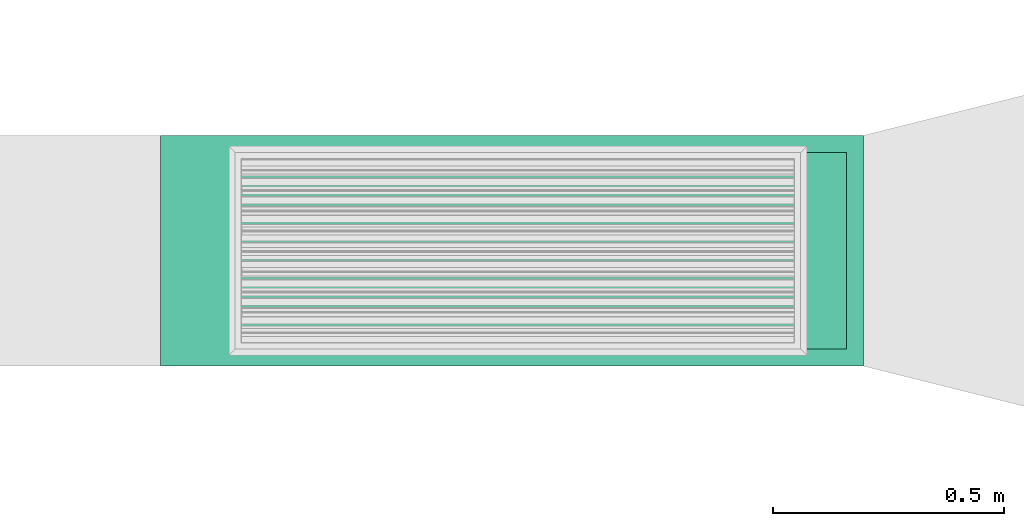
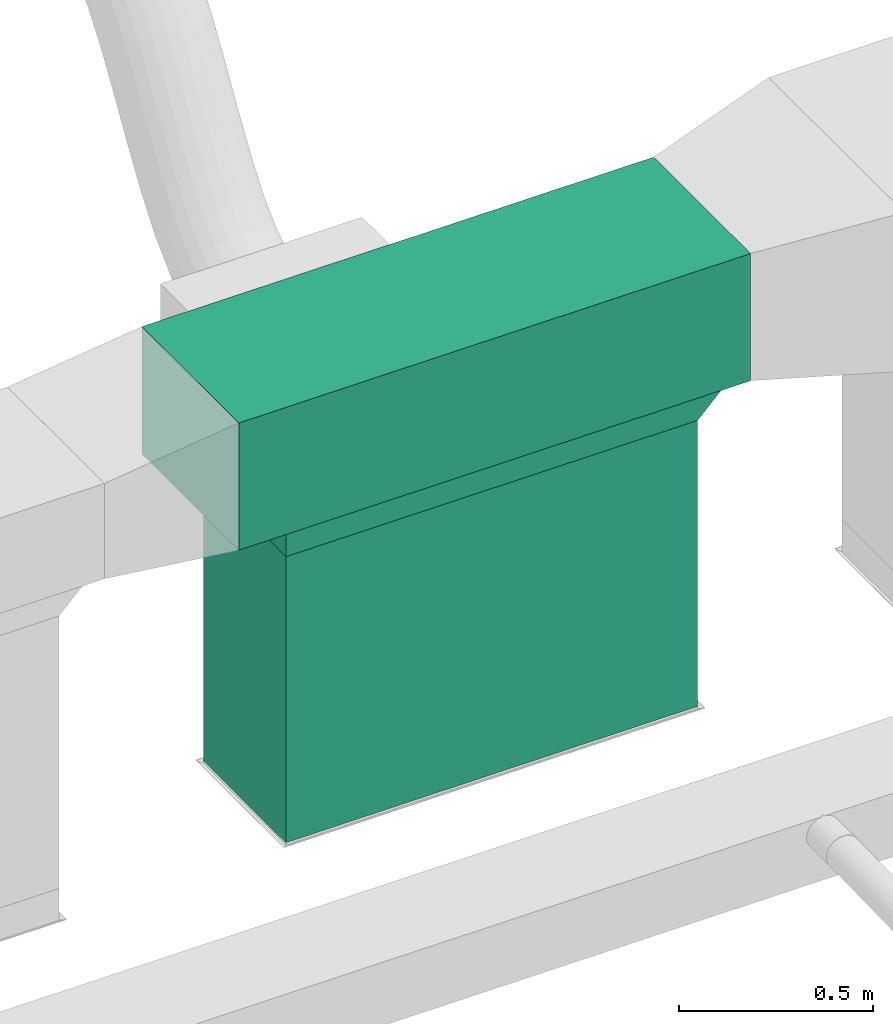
# One storey, part 4 of 60: 2 flow segments, 1 flow fitting.
"""IFC2X3 building model written with IfcOpenShell, lengths in millimetres."""

import ifcopenshell
import ifcopenshell.guid

model = None  # the IFC model being written
_history = None  # IfcOwnerHistory: only IFC2X3 demands one
_inside = {}  # id of a spatial element -> (the spatial element, [elements in it])
_under = {}  # id of a project, library or spatial element -> (it, [spatial elements below it])
_declared = {}  # id of a project -> (the project, [libraries it declares])
_typed = {}  # id of a type object -> (the type object, [elements of that type])
_made_of = {}  # id of a material, layer set ... -> (it, [elements and type objects made of it])


def new_model(schema):
    """Start an empty IFC model of exactly this schema.

    Asked for "IFC4X3", IfcOpenShell would pick the latest addendum, in which some entities
    have other attributes; the version numbers below select the first issue.
    IFC2X3 requires an IfcOwnerHistory on every rooted entity: one is made here for all.
    """
    global model, _history
    if schema == "IFC4X3":
        model = ifcopenshell.file(schema_version=(4, 3, 0, 0))
    else:
        model = ifcopenshell.file(schema=schema)
    _inside.clear()
    _under.clear()
    _declared.clear()
    _typed.clear()
    _made_of.clear()
    _history = None
    if model.schema == "IFC2X3":
        org = make("IfcOrganization", Name="unknown")
        user = make(
            "IfcPersonAndOrganization",
            ThePerson=make("IfcPerson", FamilyName="unknown"),
            TheOrganization=org,
        )
        app = make(
            "IfcApplication",
            ApplicationDeveloper=org,
            Version="unknown",
            ApplicationFullName="unknown",
            ApplicationIdentifier="unknown",
        )
        _history = make(
            "IfcOwnerHistory",
            OwningUser=user,
            OwningApplication=app,
            ChangeAction="ADDED",
            CreationDate=0,
        )
    return model


def make(cls, **values):
    """One entity of the class cls with the attributes given. An attribute that is None is left unset."""
    return model.create_entity(
        cls, **{name: value for name, value in values.items() if value is not None}
    )


def entity(cls, *values):
    """Any entity or typed value of the class cls, its attributes in the order of the schema. None: left unset."""
    e = model.create_entity(cls)
    for i, value in enumerate(values):
        if value is not None:
            e[i] = value
    return e


def rooted(cls, **values):
    """An entity with a GlobalId (a new one), such as an element, a storey or a relation."""
    return make(cls, GlobalId=ifcopenshell.guid.new(), OwnerHistory=_history, **values)


def si_unit(unit_type, name, prefix=None):
    """IfcSIUnit, for example si_unit("LENGTHUNIT", "METRE", prefix="MILLI")."""
    return make("IfcSIUnit", UnitType=unit_type, Prefix=prefix, Name=name)


def converted_unit(unit_type, name, factor, base, dimensions=None, offset=None):
    """IfcConversionBasedUnit, such as the inch: factor (a typed value) times the base unit."""
    return make(
        "IfcConversionBasedUnit"
        if offset is None
        else "IfcConversionBasedUnitWithOffset",
        ConversionOffset=offset,
        Dimensions=None
        if dimensions is None
        else entity("IfcDimensionalExponents", *dimensions),
        UnitType=unit_type,
        Name=name,
        ConversionFactor=make(
            "IfcMeasureWithUnit", ValueComponent=factor, UnitComponent=base
        ),
    )


def derived_unit(unit_type, elements):
    """IfcDerivedUnit: a product of units, each with its exponent."""
    return make(
        "IfcDerivedUnit",
        Elements=[
            make("IfcDerivedUnitElement", Unit=unit, Exponent=power)
            for unit, power in elements
        ],
        UnitType=unit_type,
    )


def assignment(units):
    """IfcUnitAssignment: the units of a project."""
    return None if units is None else make("IfcUnitAssignment", Units=units)


def point(xyz):
    """IfcCartesianPoint."""
    return None if xyz is None else make("IfcCartesianPoint", Coordinates=xyz)


def direction(xyz):
    """IfcDirection."""
    return None if xyz is None else make("IfcDirection", DirectionRatios=xyz)


def frame(location, z_axis=None, x_axis=None):
    """IfcAxis2Placement3D, a coordinate frame: its origin and axes. An axis left out is left unset."""
    return make(
        "IfcAxis2Placement3D",
        Location=point(location),
        Axis=direction(z_axis),
        RefDirection=direction(x_axis),
    )


def frame_2d(location, x_axis=None):
    """IfcAxis2Placement2D, a coordinate frame in the plane: its origin and x axis."""
    return make(
        "IfcAxis2Placement2D", Location=point(location), RefDirection=direction(x_axis)
    )


def origin():
    """The frame at (0, 0, 0) with its axes left unset."""
    return frame((0.0, 0.0, 0.0))


def origin_2d_with_axis():
    """The frame at (0, 0) in the plane with the x axis (1, 0) written out."""
    return frame_2d((0.0, 0.0), x_axis=(1.0, 0.0))


def place(relative_to, where):
    """IfcLocalPlacement: puts the frame where relative to a parent placement (None: the world)."""
    return make(
        "IfcLocalPlacement", PlacementRelTo=relative_to, RelativePlacement=where
    )


def context(
    kind, dimensions, precision=None, world=None, true_north=None, identifier=None
):
    """IfcGeometricRepresentationContext, for example the 3D "Model" context."""
    return make(
        "IfcGeometricRepresentationContext",
        ContextIdentifier=identifier,
        ContextType=kind,
        CoordinateSpaceDimension=dimensions,
        Precision=precision,
        WorldCoordinateSystem=world,
        TrueNorth=true_north,
    )


def subcontext(parent, identifier, kind, view, scale=None):
    """IfcGeometricRepresentationSubContext, for example "Body" below "Model"."""
    return make(
        "IfcGeometricRepresentationSubContext",
        ContextIdentifier=identifier,
        ContextType=kind,
        ParentContext=parent,
        TargetScale=scale,
        TargetView=view,
    )


def project(units=None, contexts=None):
    """IfcProject with its units and contexts."""
    return rooted(
        "IfcProject",
        Name="project",
        RepresentationContexts=contexts,
        UnitsInContext=assignment(units),
    )


def spatial(cls, under=None, at=None, **own):
    """A site, building, storey or space (cls), placed at a placement, below another one or the project."""
    s = rooted(cls, ObjectPlacement=at, **own)
    if under is not None:
        _under.setdefault(under.id(), (under, []))[1].append(s)
    return s


def polyline(points):
    """IfcPolyline through the points."""
    return make("IfcPolyline", Points=[point(p) for p in points])


def profile(cls, at=None, kind="AREA", **sizes):
    """A parametric profile (cls). Its sizes go by their IFC names, for example OverallWidth=200.0."""
    return make(cls, ProfileType=kind, Position=at, **sizes)


def rectangle(**sizes):
    """IfcRectangleProfileDef."""
    return profile("IfcRectangleProfileDef", **sizes)


def outline(outer, holes=None, kind="AREA"):
    """IfcArbitraryClosedProfileDef: a profile drawn as a closed curve; with holes, ...WithVoids."""
    if holes is None:
        return make("IfcArbitraryClosedProfileDef", ProfileType=kind, OuterCurve=outer)
    return make(
        "IfcArbitraryProfileDefWithVoids",
        ProfileType=kind,
        OuterCurve=outer,
        InnerCurves=holes,
    )


def extrude(swept, where, along, depth):
    """IfcExtrudedAreaSolid: the profile swept, set in the frame where, extruded along a direction by depth."""
    return make(
        "IfcExtrudedAreaSolid",
        SweptArea=swept,
        Position=where,
        ExtrudedDirection=direction(along),
        Depth=depth,
    )


def shape(context_of_items, identifier, shape_type, items):
    """IfcShapeRepresentation: the items that make up one representation, for example the "Body"."""
    return make(
        "IfcShapeRepresentation",
        ContextOfItems=context_of_items,
        RepresentationIdentifier=identifier,
        RepresentationType=shape_type,
        Items=items,
    )


def source(mapping_origin, context_of_items, identifier, shape_type, items):
    """IfcRepresentationMap: a shape defined once, which mapped items show again and again."""
    return make(
        "IfcRepresentationMap",
        MappingOrigin=mapping_origin,
        MappedRepresentation=shape(context_of_items, identifier, shape_type, items),
    )


def transform(
    local_origin,
    x_axis=None,
    y_axis=None,
    z_axis=None,
    scale=None,
    scale2=None,
    scale3=None,
    uniform=True,
):
    """IfcCartesianTransformationOperator3D, or its non-uniform kind. x_axis, y_axis, z_axis: its Axis1, 2, 3."""
    if uniform:
        return make(
            "IfcCartesianTransformationOperator3D",
            Axis1=direction(x_axis),
            Axis2=direction(y_axis),
            LocalOrigin=point(local_origin),
            Scale=scale,
            Axis3=direction(z_axis),
        )
    return make(
        "IfcCartesianTransformationOperator3DnonUniform",
        Axis1=direction(x_axis),
        Axis2=direction(y_axis),
        LocalOrigin=point(local_origin),
        Scale=scale,
        Axis3=direction(z_axis),
        Scale2=scale2,
        Scale3=scale3,
    )


def mapped(mapping_source, mapping_target):
    """IfcMappedItem: shows the shape of a source again, moved by a transform."""
    return make(
        "IfcMappedItem", MappingSource=mapping_source, MappingTarget=mapping_target
    )


def material(Name=None, Category=None):
    """IfcMaterial."""
    return make("IfcMaterial", Name=Name, Category=Category)


def made_of(thing, what):
    """Note that an element or type object is made of a material, layer set ...; save() writes the relation."""
    if what is not None:
        _made_of.setdefault(what.id(), (what, []))[1].append(thing)
    return thing


def type_object(cls, material=None, **own):
    """A type object (cls), such as IfcWallType, which elements share."""
    return made_of(rooted(cls, **own), material)


def type_shapes(of_type, sources):
    """Give a type object the sources (RepresentationMaps) that its elements show as mapped items."""
    of_type.RepresentationMaps = sources


def element(
    cls,
    number,
    at=None,
    inside=None,
    cuts=None,
    type_object=None,
    material=None,
    context=None,
    identifier="Body",
    shape_type=None,
    held_by="IfcProductDefinitionShape",
    body=None,
    shapes=None,
    **own,
):
    """One element of the class cls, such as IfcWall. Its Tag is "e" and its number.

    at: its placement. inside: the storey or other place that contains it. cuts: it is an
    opening in that element (IfcRelVoidsElement). A single representation is given by context,
    identifier, shape_type and body (its items); several are given by shapes. held_by: the class
    of the entity that holds the representations. save() writes the other relations.
    """
    e = rooted(cls, Tag="e%d" % number, ObjectPlacement=at, **own)
    if body is not None:
        shapes = [shape(context, identifier, shape_type, body)]
    if shapes is not None:
        e.Representation = make(held_by, Representations=shapes)
    if inside is not None:
        _inside.setdefault(inside.id(), (inside, []))[1].append(e)
    if cuts is not None:
        rooted(
            "IfcRelVoidsElement", RelatingBuildingElement=cuts, RelatedOpeningElement=e
        )
    if type_object is not None:
        _typed.setdefault(type_object.id(), (type_object, []))[1].append(e)
    return made_of(e, material)


def aggregate(whole, parts):
    """IfcRelAggregates: a whole, such as a stair, and the parts it consists of."""
    return rooted("IfcRelAggregates", RelatingObject=whole, RelatedObjects=parts)


def save(model, path):
    """Write the relations noted so far, then the file.

    IfcRelAggregates (storeys below a building ...), IfcRelContainedInSpatialStructure (elements
    in a storey), IfcRelDefinesByType, IfcRelAssociatesMaterial and IfcRelDeclares: one each for
    every whole, place, type object, material and project.
    """
    for whole, parts in _under.values():
        aggregate(whole, parts)
    for where, things in _inside.values():
        rooted(
            "IfcRelContainedInSpatialStructure",
            RelatedElements=things,
            RelatingStructure=where,
        )
    for kind, things in _typed.values():
        rooted("IfcRelDefinesByType", RelatedObjects=things, RelatingType=kind)
    for what, things in _made_of.values():
        rooted("IfcRelAssociatesMaterial", RelatedObjects=things, RelatingMaterial=what)
    for by, libraries in _declared.values():
        rooted("IfcRelDeclares", RelatingContext=by, RelatedDefinitions=libraries)
    model.write(path)


model = new_model("IFC2X3")

# Units and contexts
model_context = context("Model", 3, precision=0.01, world=origin(), true_north=direction((6.123233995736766e-17, 1.0)))
body_context = subcontext(model_context, "Body", "Model", "MODEL_VIEW")
ifc_project = project(units=[si_unit("LENGTHUNIT", "METRE", prefix="MILLI"), converted_unit("PLANEANGLEUNIT", "DEGREE", entity("IfcPlaneAngleMeasure", 0.017453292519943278), si_unit("PLANEANGLEUNIT", "RADIAN"), dimensions=[0, 0, 0, 0, 0, 0, 0]), si_unit("AREAUNIT", "SQUARE_METRE"), derived_unit("THERMALTRANSMITTANCEUNIT", [(si_unit("MASSUNIT", "GRAM", prefix="KILO"), 1), (si_unit("THERMODYNAMICTEMPERATUREUNIT", "KELVIN"), -1), (si_unit("TIMEUNIT", "SECOND"), -3)])], contexts=[model_context])

# Site, building, storey
site_placement = place(None, origin())
site = spatial("IfcSite", under=ifc_project, at=site_placement, Name="Default", CompositionType="ELEMENT")
building_placement = place(site_placement, origin())
building = spatial("IfcBuilding", under=site, at=building_placement, Name="Praça Pedro II, 1301 - Centro (Sul), Teresina - PI, 64001-100", CompositionType="ELEMENT")
storey_placement = place(building_placement, frame((0.0, 0.0, 6040.0)))
storey = spatial("IfcBuildingStorey", under=building, at=storey_placement, Name="2PAV", CompositionType="ELEMENT", Elevation=6040.0)

# Flow segments
duct_segment_type = type_object("IfcDuctSegmentType", Name="Duto retangular:Raios cotovelos / torneiras", PredefinedType="NOTDEFINED")
flow_segment_1_placement = place(storey_placement, origin())
element("IfcFlowSegment", 1, at=flow_segment_1_placement, inside=storey, type_object=duct_segment_type, Name="Duto retangular:Raios cotovelos / torneiras", ObjectType="Duto retangular:Raios cotovelos / torneiras", context=body_context, shape_type="SweptSolid", body=[
    extrude(rectangle(XDim=1522.9828138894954, YDim=499.999999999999, at=origin_2d_with_axis()), frame((26236.72683132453, -67411.94163590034, 3300.0)), (0.0, 0.0, 1.0), 400.0),
])
flow_segment_2_placement = place(storey_placement, origin())
element("IfcFlowSegment", 2, at=flow_segment_2_placement, inside=storey, type_object=duct_segment_type, Name="Duto retangular:Raios cotovelos / torneiras", ObjectType="Duto retangular:Raios cotovelos / torneiras", context=body_context, shape_type="SweptSolid", body=[
    extrude(rectangle(XDim=425.00000000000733, YDim=1224.9999999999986, at=frame_2d((8.668621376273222e-12, 0.0), x_axis=(1.0, 0.0))), frame((26249.5174992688, -67411.94163590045, 2300.0), z_axis=(0.0, 0.0, 1.0), x_axis=(0.0, -1.0, 0.0)), (0.0, 0.0, 1.0), 899.9999999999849),
])

# Flow fitting
ifc_material = material(Name="<Unnamed>")
duct_fitting_type = type_object("IfcDuctFittingType", Name="M_Rectangular Tap - Beveled:Standard", PredefinedType="NOTDEFINED", material=ifc_material)
shared_shape = source(origin(), body_context, "Body", "SweptSolid", [
    extrude(outline(polyline([(-775.0, -62.438400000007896), (450.0, -62.438400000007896), (550.0, 37.56159999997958), (550.0, 43.6576000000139), (-775.0, 43.65760000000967), (-775.0, -62.438400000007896)])), frame((37.56159999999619, 162.50000000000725, -212.49999999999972), z_axis=(0.0, 0.0, 1.0), x_axis=(0.0, 1.0, 0.0)), (0.0, 0.0, 1.0), 424.99999999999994),
])
type_shapes(duct_fitting_type, [shared_shape])
flow_fitting_placement = place(storey_placement, frame((26249.517499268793, -67411.94163590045, 3300.0), z_axis=(0.0, -1.0, 0.0), x_axis=(0.0, 0.0, -1.0)))
element("IfcFlowFitting", 3, at=flow_fitting_placement, inside=storey, type_object=duct_fitting_type, material=ifc_material, Name="M_Rectangular Tap - Beveled:Standard", ObjectType="M_Rectangular Tap - Beveled:Standard", context=body_context, shape_type="MappedRepresentation", body=[
    mapped(shared_shape, transform((0.0, 0.0, 0.0), scale=1.0)),
])

save(model, "model.ifc")
